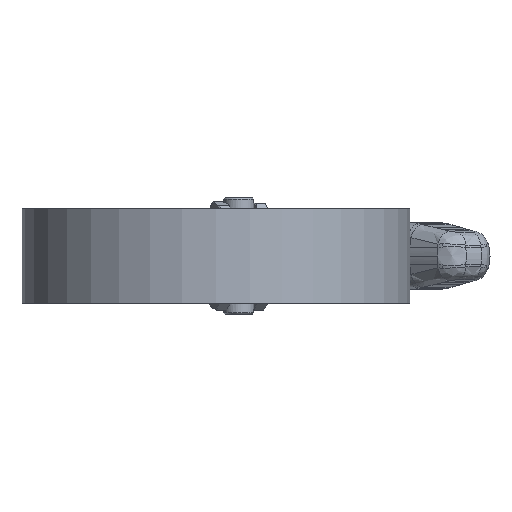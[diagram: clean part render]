
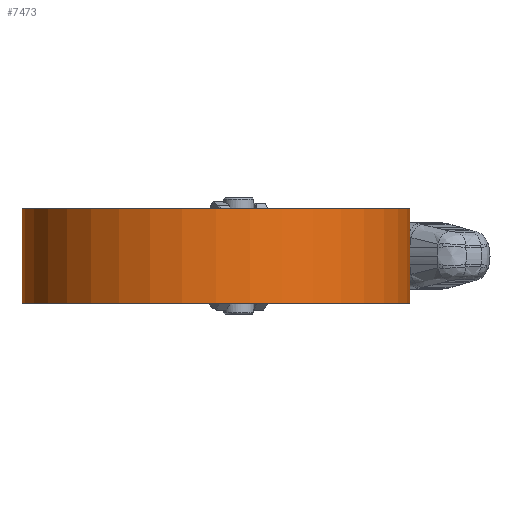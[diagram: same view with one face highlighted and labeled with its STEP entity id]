
A CAD part, front view. The second image highlights one B-rep face of the part: STEP entity #7473.
In plain terms, the highlighted cylindrical face has radius 61.5 mm (diameter 123 mm), a partial arc.
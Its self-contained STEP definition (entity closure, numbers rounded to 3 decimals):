
#282 = VERTEX_POINT ( 'NONE', #27545 ) ;
#284 = CYLINDRICAL_SURFACE ( 'NONE', #16124, 61.5 ) ;
#489 = AXIS2_PLACEMENT_3D ( 'NONE', #19091, #13614, #31872 ) ;
#1085 = EDGE_CURVE ( 'NONE', #32013, #1318, #9005, .T. ) ;
#1143 = AXIS2_PLACEMENT_3D ( 'NONE', #18713, #6124, #16228 ) ;
#1318 = VERTEX_POINT ( 'NONE', #13461 ) ;
#1916 = CARTESIAN_POINT ( 'NONE',  ( 61.5, 0., 15. ) ) ;
#4242 = LINE ( 'NONE', #1916, #15772 ) ;
#5826 = ORIENTED_EDGE ( 'NONE', *, *, #16351, .F. ) ;
#6124 = DIRECTION ( 'NONE',  ( 0., 0., 1. ) ) ;
#6722 = CARTESIAN_POINT ( 'NONE',  ( 61.5, 0., -15. ) ) ;
#7473 = ADVANCED_FACE ( 'NONE', ( #28154 ), #284, .T. ) ;
#9005 = LINE ( 'NONE', #19103, #17775 ) ;
#9528 = EDGE_CURVE ( 'NONE', #282, #14024, #4242, .T. ) ;
#12013 = DIRECTION ( 'NONE',  ( 0., 0., -1. ) ) ;
#12793 = ORIENTED_EDGE ( 'NONE', *, *, #9528, .F. ) ;
#13461 = CARTESIAN_POINT ( 'NONE',  ( -61.5, 0., -15. ) ) ;
#13614 = DIRECTION ( 'NONE',  ( 0., 0., 1. ) ) ;
#14024 = VERTEX_POINT ( 'NONE', #6722 ) ;
#14261 = DIRECTION ( 'NONE',  ( 0., 0., -1. ) ) ;
#14781 = CIRCLE ( 'NONE', #489, 61.5 ) ;
#15772 = VECTOR ( 'NONE', #12013, 1000. ) ;
#16124 = AXIS2_PLACEMENT_3D ( 'NONE', #25653, #20527, #30670 ) ;
#16228 = DIRECTION ( 'NONE',  ( 1., 0., 0. ) ) ;
#16351 = EDGE_CURVE ( 'NONE', #32013, #282, #14781, .T. ) ;
#17775 = VECTOR ( 'NONE', #14261, 1000. ) ;
#18713 = CARTESIAN_POINT ( 'NONE',  ( 0., 0., -15. ) ) ;
#19091 = CARTESIAN_POINT ( 'NONE',  ( 0., 0., 15. ) ) ;
#19103 = CARTESIAN_POINT ( 'NONE',  ( -61.5, 0., 15. ) ) ;
#19605 = EDGE_CURVE ( 'NONE', #1318, #14024, #22868, .T. ) ;
#20527 = DIRECTION ( 'NONE',  ( 0., 0., -1. ) ) ;
#20612 = EDGE_LOOP ( 'NONE', ( #12793, #5826, #24077, #29599 ) ) ;
#22868 = CIRCLE ( 'NONE', #1143, 61.5 ) ;
#24077 = ORIENTED_EDGE ( 'NONE', *, *, #1085, .T. ) ;
#25653 = CARTESIAN_POINT ( 'NONE',  ( 0., 0., 15. ) ) ;
#27545 = CARTESIAN_POINT ( 'NONE',  ( 61.5, 0., 15. ) ) ;
#28154 = FACE_OUTER_BOUND ( 'NONE', #20612, .T. ) ;
#29599 = ORIENTED_EDGE ( 'NONE', *, *, #19605, .T. ) ;
#30347 = CARTESIAN_POINT ( 'NONE',  ( -61.5, 0., 15. ) ) ;
#30670 = DIRECTION ( 'NONE',  ( -1., 0., 0. ) ) ;
#31872 = DIRECTION ( 'NONE',  ( 1., 0., 0. ) ) ;
#32013 = VERTEX_POINT ( 'NONE', #30347 ) ;
